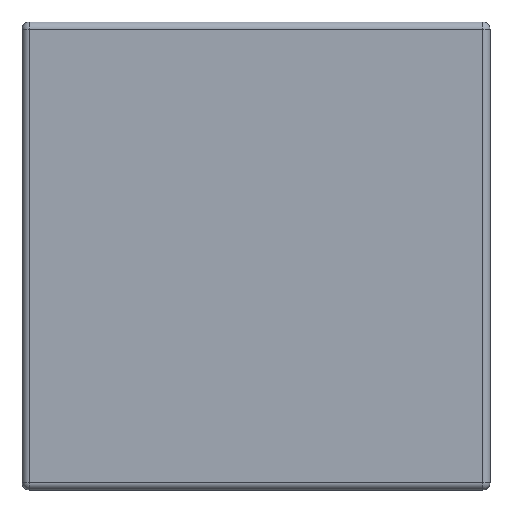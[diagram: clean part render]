
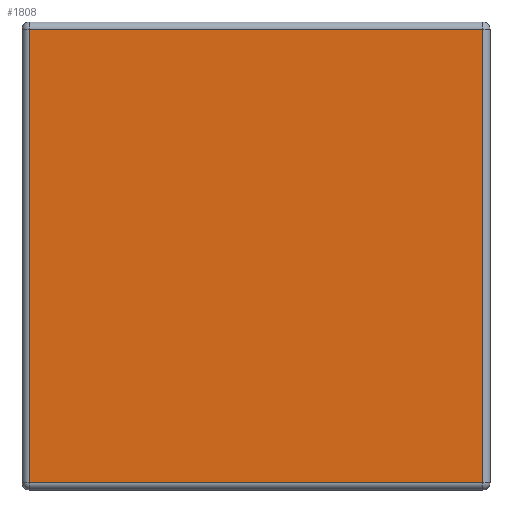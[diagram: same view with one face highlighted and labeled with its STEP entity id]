
A CAD part, front view. The second image highlights one B-rep face of the part: STEP entity #1808.
In plain terms, the highlighted planar face has unit normal (0, -1, 0).
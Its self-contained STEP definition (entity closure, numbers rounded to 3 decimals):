
#154=PLANE('',#1947);
#218=FACE_OUTER_BOUND('',#327,.T.);
#327=EDGE_LOOP('',(#1367,#1368,#1369,#1370));
#471=LINE('',#3137,#631);
#472=LINE('',#3139,#632);
#473=LINE('',#3141,#633);
#474=LINE('',#3142,#634);
#631=VECTOR('',#2204,1000.);
#632=VECTOR('',#2205,1000.);
#633=VECTOR('',#2206,1000.);
#634=VECTOR('',#2207,1000.);
#855=VERTEX_POINT('',#3135);
#856=VERTEX_POINT('',#3136);
#857=VERTEX_POINT('',#3138);
#858=VERTEX_POINT('',#3140);
#1055=EDGE_CURVE('',#855,#856,#471,.T.);
#1056=EDGE_CURVE('',#856,#857,#472,.T.);
#1057=EDGE_CURVE('',#857,#858,#473,.T.);
#1058=EDGE_CURVE('',#858,#855,#474,.T.);
#1367=ORIENTED_EDGE('',*,*,#1055,.T.);
#1368=ORIENTED_EDGE('',*,*,#1056,.T.);
#1369=ORIENTED_EDGE('',*,*,#1057,.T.);
#1370=ORIENTED_EDGE('',*,*,#1058,.T.);
#1808=ADVANCED_FACE('',(#218),#154,.F.);
#1947=AXIS2_PLACEMENT_3D('',#3134,#2202,#2203);
#2202=DIRECTION('center_axis',(0.,1.,0.));
#2203=DIRECTION('ref_axis',(0.,0.,1.));
#2204=DIRECTION('',(0.,0.,1.));
#2205=DIRECTION('',(-1.,0.,0.));
#2206=DIRECTION('',(0.,0.,-1.));
#2207=DIRECTION('',(1.,0.,0.));
#3134=CARTESIAN_POINT('Origin',(-40.,0.,40.));
#3135=CARTESIAN_POINT('',(38.75,0.,-38.75));
#3136=CARTESIAN_POINT('',(38.75,0.,38.75));
#3137=CARTESIAN_POINT('',(38.75,0.,40.));
#3138=CARTESIAN_POINT('',(-38.75,0.,38.75));
#3139=CARTESIAN_POINT('',(-40.,0.,38.75));
#3140=CARTESIAN_POINT('',(-38.75,0.,-38.75));
#3141=CARTESIAN_POINT('',(-38.75,0.,40.));
#3142=CARTESIAN_POINT('',(-40.,0.,-38.75));
